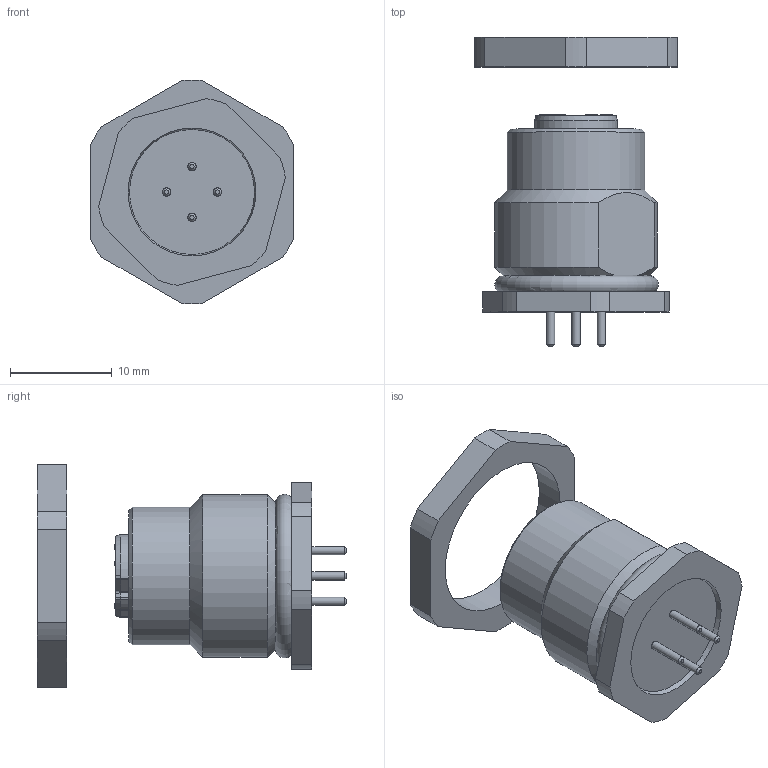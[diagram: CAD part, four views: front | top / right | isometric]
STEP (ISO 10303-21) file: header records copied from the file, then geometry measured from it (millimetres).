
FILE_DESCRIPTION(/* description */ (''),/* implementation_level */ '2;1');
FILE_NAME(/* name */ '100195479ugm000_b.stp',/* time_stamp */ '2015-12-23T12:43:33+01:00',/* author */ (''),/* organization */ (''),/* preprocessor_version */ 'ST-DEVELOPER v15',/* originating_system */ 'SIEMENS PLM Software NX 8.5',/* authorisation */ '');
FILE_SCHEMA (('AUTOMOTIVE_DESIGN { 1 0 10303 214 3 1 1 1 }'));
Length unit declared in the file: millimetre
Products named in the file (2): 21010000010-A-Kontermutter_M16x1.5; 100195479ugm000_b
Assembly tree (1 placements, depth 2):
  100195479ugm000_b
    21010000010-A-Kontermutter_M16x1.5
Bounding box: 20 x 30.4 x 21.99 mm (x, y, z)
Volume: 3292.5 mm3; surface area: 2684.5 mm2
Topology: 2 solids, 2 shells, 185 faces, 472 edges, 314 vertices
Faces by surface type: plane 98, cylinder 63, cone 22, torus 2
Full cylindrical faces by diameter (mm): 0.8 x4, 1.15 x4, 11.1 x1, 13.5 x1, 16 x1
Entity records: 6829 total; most frequent: CARTESIAN_POINT 1136, DIRECTION 937, ORIENTED_EDGE 874, EDGE_CURVE 437, AXIS2_PLACEMENT_3D 335, VERTEX_POINT 301, LINE 267, VECTOR 267
